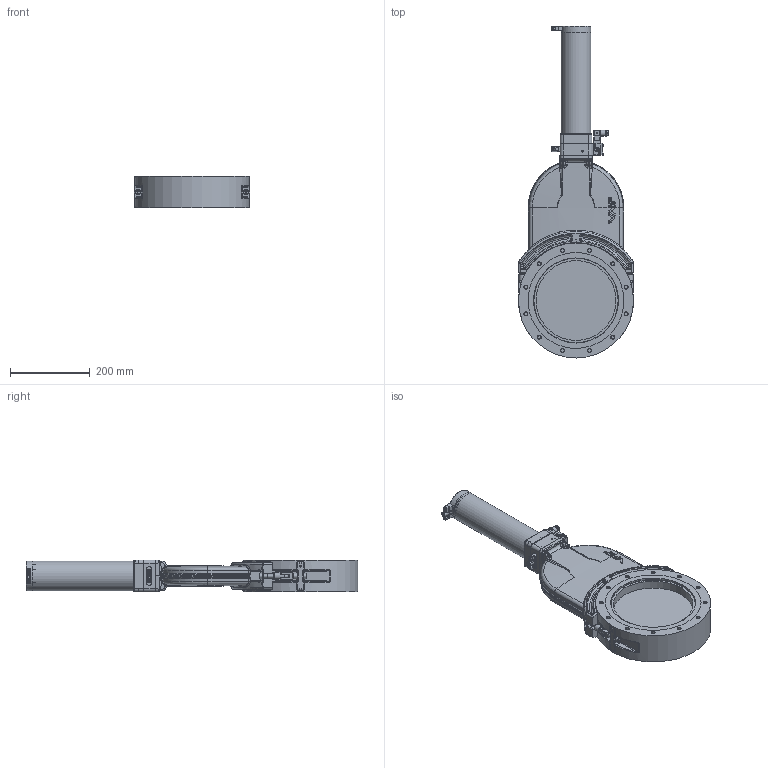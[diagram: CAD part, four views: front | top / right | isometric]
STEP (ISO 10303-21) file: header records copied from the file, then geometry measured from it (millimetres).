
FILE_DESCRIPTION(/* description */ (''),/* implementation_level */ '2;1');
FILE_NAME(/* name */ '1051254511_203.stp',/* time_stamp */ '2013-11-25T18:07:06+01:00',/* author */ (''),/* organization */ (''),/* preprocessor_version */ 'ST-DEVELOPER v11',/* originating_system */ 'SIEMENS PLM Software NX 7.5',/* authorisation */ '');
FILE_SCHEMA (('AP203_CONFIGURATION_CONTROLLED_3D_DESIGN_OF_MECHANICAL_PARTS_AND_ASSEMBLIES_MIM_LF'));
Products named in the file (50): N-8406-013_3.2; N-8406-013_2.1; 73662-01.1; 202839_1.2; N-6121-039.1; N-6099-417.1; 467882; 437235; 213005.2; 213006.3; N-6121-026.2; 211950.1; 214173.2; 92838-01_2.2; 213189_1.2; N-6121-027.2; 237913.3_24508ID; 80477-01.1; N-7100-005_2.1; 80478-01.1; N-6195-007.2; 93115-01.1; 87105-01.1; 77379-01.1; T-9001-055.1; N-6016-478.2; N-7557-016_1.1; N-7557-018.1; N-7557-016_2.1; N-6024-524.1; N-5018-005.1; 237900.1; 231510.2; 237904.1; 213003.1; 213194.1; 212984.9_19593ID; 263423.9; 213193.1; 213004_1.1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
Assembly tree (73 placements, depth 5):
  223117.12
    213004_1.1  x2
    213193.1  x4
    263423.9
    212984.9_19593ID
    94800-R1.7_NX-ARRAGMNTKONFIG1
      N-5018-005.1  x2
      N-6024-524.1  x6
      N-7557-016_2.1
      N-7557-018.1
      N-7557-016_1.1
      N-7557-016_3.1_MODELNX-ARRAGMNTArrangement 1
        437235
        467882
    213194.1  x2
    213003.1  x2
    78855-R1.9_NX-ARRAGMNTZUSAMMENST1  x2
      N-6016-478.2
      T-9001-055.1
      78856-R1.3
        N-6099-417.1  x2
        N-6121-039.1
        202839_1.2
        73662-01.1
        N-8406-013_1_1.4_NX-ARRAGMNTZUSAMMENST1
          N-8406-013_2.1
          202839_1.2
          N-8406-013_3.2
      77379-01.1
    87090-r1.22_NX-ARRAGMNTunbetaetigt Hub 0mm (ohne Feder)
      87105-01.1
      93115-01.1
      N-6195-007.2
      80478-01.1
      N-7100-005_2.1
      80477-01.1
    237908.3
      237913.3_24508ID
      N-6121-027.2  x2
      213189_1.2
    87090-r1.22_NX-ARRAGMNToffen_213913 Hub 4,45mm (mit Feder)
      87105-01.1
      93115-01.1
      N-6195-007.2
      80478-01.1
      N-7100-005_2.1
      80477-01.1
      92838-01_2.2
    237904.1
    231510.2
    237900.1
    213000.7_NX-ARRAGMNTVB (gerade) gestreckt  x2
      214173.2
      211950.1
      N-6121-026.2
      213006.3
      213005.2
Bounding box: 290 x 831.8 x 80 mm (x, y, z)
Volume: 4978437.8 mm3; surface area: 861018.8 mm2
Topology: 83 solids, 83 shells, 2980 faces, 7179 edges, 4446 vertices
Faces by surface type: plane 1285, cylinder 716, bspline 603, cone 213, torus 84, sphere 49, extrusion 28, revolution 2
Full cylindrical faces by diameter (mm): 1.4 x4, 1.5 x4, 1.875 x2, 2 x5, 2.115 x8, 2.3 x2, 2.475 x6, 2.5 x8, 2.56 x2, 2.575 x2, 2.8 x1, 3 x15, 3.2 x4, 3.3 x6, 3.4 x4, 3.5 x13, 4 x2, 4.1 x2, 4.2 x6, 4.22 x1, 4.3 x2, 4.4 x4, 4.7 x4, 5 x5, 5.5 x3, 5.6 x2, 5.65 x2, 5.7 x2, 5.8 x4, 5.92 x2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
Entity records: 94502 total; most frequent: CARTESIAN_POINT 33723, ORIENTED_EDGE 9934, DIRECTION 8865, EDGE_CURVE 4967, AXIS2_PLACEMENT_3D 3548, VERTEX_POINT 3269, EDGE_LOOP 2893, ADVANCED_FACE 2279
